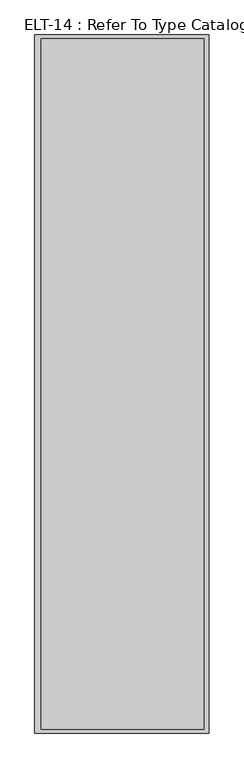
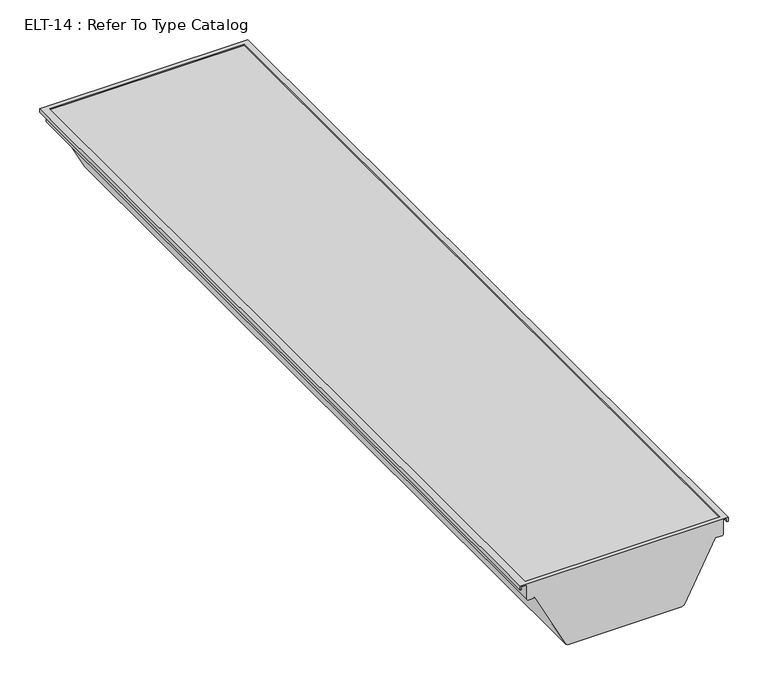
"""IFC4 building model written with IfcOpenShell, lengths in millimetres: light fixture geometry, ELT-14 : Refer To Type Catalog."""

from ifc_helpers import new_model, si_unit, frame, origin, place, context, project, spatial, polyline, outline, extrude, faceted_brep, source, transform, mapped, element, save


def elt_14_refer_to_type_catalog_abc9ac32(model_context):
    return source(origin(), model_context, "Body", "SolidModel", [
        faceted_brep([(242.4824085, -609.6, 0.3759373), (250.2375446, -609.6, 0.3759373), (250.2375446, -609.6, -21.7119856), (251.8212015, -609.6, -23.2956425), (261.569726, -609.6, -23.2956425), (306.7891329, -609.6, -110.7513712), (310.2429241, -609.6, -112.3619005), (476.3468929, -609.6, -112.3619005), (479.8006841, -609.6, -110.7513712), (525.020091, -609.6, -23.2956425), (534.7686155, -609.6, -23.2956425), (536.3522724, -609.6, -21.7119856), (536.3522724, -609.6, 0.3759373), (541.8949085, -609.6, 0.3759373), (541.8949085, -609.6, -4.0766196), (543.8949085, -609.6, -4.0766196), (543.8949085, -609.6, 1.9634373), (240.8949085, -609.6, 1.9634373), (240.8949085, -609.6, -4.0766196), (242.4824085, -609.6, -4.0766196), (251.8250446, -603.25, 1.9634373), (534.9248324, -603.25, 1.9634373), (534.9248324, -603.25, -21.7081425), (524.2138244, -603.25, -21.7081425), (478.1616856, -603.25, -110.7744005), (308.5881914, -603.25, -110.7744005), (262.5360526, -603.25, -21.7081425), (251.8250446, -603.25, -21.7081425), (242.4824085, 596.9, -4.0766196), (242.4824085, 603.25, -4.0766196), (242.4824085, 603.25, 0.0), (242.4824085, 596.9, 0.0), (242.4824085, 596.9, 0.3759373), (240.8949085, 596.9, -4.0766196), (240.8949085, 603.25, -4.0766196), (240.8949085, 603.25, 1.9634373), (543.8949085, 603.25, 1.9634373), (251.8250446, 596.9, 1.9634373), (534.9248324, 596.9, 1.9634373), (543.8949085, 596.9, -4.0766196), (543.8949085, 603.25, -4.0766196), (541.8949085, 596.9, -4.0766196), (541.8949085, 603.25, -4.0766196), (541.8949085, 596.9, 0.3759373), (541.8949085, 596.9, 0.0), (541.8949085, 603.25, 0.0), (536.3522724, 596.9, 0.3759373), (536.3522724, 596.9, -21.7119856), (536.3522724, 603.25, -21.7119856), (536.3522724, 603.25, 0.0), (536.3522724, 596.9, 0.0), (534.7686155, 596.9, -23.2956425), (534.7686155, 603.25, -23.2956425), (525.020091, 596.9, -23.2956425), (525.020091, 603.25, -23.2956425), (479.8006841, 596.9, -110.7513712), (479.8006841, 603.25, -110.7513712), (476.3468929, 596.9, -112.3619005), (476.3468929, 603.25, -112.3619005), (310.2429241, 596.9, -112.3619005), (310.2429241, 603.25, -112.3619005), (306.7891329, 596.9, -110.7513712), (306.7891329, 603.25, -110.7513712), (261.569726, 596.9, -23.2956425), (261.569726, 603.25, -23.2956425), (251.8212015, 596.9, -23.2956425), (251.8212015, 603.25, -23.2956425), (250.2375446, 596.9, -21.7119856), (250.2375446, 603.25, -21.7119856), (250.2375446, 596.9, 0.3759373), (250.2375446, 596.9, 0.0), (250.2375446, 603.25, 0.0), (251.8250446, 596.9, -21.7081425), (262.5360526, 596.9, -21.7081425), (308.5881914, 596.9, -110.7744005), (478.1616856, 596.9, -110.7744005), (524.2138244, 596.9, -21.7081425), (534.9248324, 596.9, -21.7081425)], [[[0, 1, 2, 3, 4, 5, 6, 7, 8, 9, 10, 11, 12, 13, 14, 15, 16, 17, 18, 19]], [[20, 21, 22, 23, 24, 25, 26, 27]], [[0, 19, 28, 29, 30, 31, 32]], [[19, 18, 33, 34, 29, 28]], [[18, 17, 35, 34, 33]], [[17, 16, 36, 35], [20, 37, 38, 21]], [[36, 16, 15, 39, 40]], [[15, 14, 41, 42, 40, 39]], [[14, 13, 43, 44, 45, 42, 41]], [[13, 12, 46, 43]], [[12, 11, 47, 48, 49, 50, 46]], [[11, 10, 51, 52, 48, 47]], [[10, 9, 53, 54, 52, 51]], [[9, 8, 55, 56, 54, 53]], [[8, 7, 57, 58, 56, 55]], [[7, 6, 59, 60, 58, 57]], [[6, 5, 61, 62, 60, 59]], [[5, 4, 63, 64, 62, 61]], [[4, 3, 65, 66, 64, 63]], [[3, 2, 67, 68, 66, 65]], [[2, 1, 69, 70, 71, 68, 67]], [[1, 0, 32, 69]], [[29, 34, 35, 36, 40, 42, 45, 49, 48, 52, 54, 56, 58, 60, 62, 64, 66, 68, 71, 30]], [[20, 27, 72, 37]], [[27, 26, 73, 72]], [[26, 25, 74, 73]], [[25, 24, 75, 74]], [[24, 23, 76, 75]], [[23, 22, 77, 76]], [[22, 21, 38, 77]], [[31, 70, 69, 32]], [[50, 44, 43, 46]], [[38, 37, 72, 73, 74, 75, 76, 77]], [[49, 45, 44, 50]], [[30, 71, 70, 31]]]),
        extrude(outline(polyline([(251.8250446, 596.9), (534.9248324, 596.9), (534.9248324, -603.25), (251.8250446, -603.25), (251.8250446, 596.9)])), frame((0.0, 0.0, -0.8954793), z_axis=(0.0, 0.0, 1.0), x_axis=(1.0, 0.0, 0.0)), (0.0, 0.0, 1.0), 1.2714166),
    ])


if __name__ == "__main__":
    model = new_model("IFC4")
    model_context = context("Model", 3, world=origin())
    ifc_project = project(units=[si_unit("LENGTHUNIT", "METRE", prefix="MILLI")], contexts=[model_context])
    site = spatial("IfcSite", under=ifc_project)
    building = spatial("IfcBuilding", under=site)
    placement = place(None, origin())
    elt_14_refer_to_type_catalog_shape = elt_14_refer_to_type_catalog_abc9ac32(model_context)
    element("IfcLightFixture", 1, ObjectType="ELT-14 : Refer To Type Catalog", at=placement, inside=building, context=model_context, shape_type="MappedRepresentation", body=[
        mapped(elt_14_refer_to_type_catalog_shape, transform((0.0, 0.0, 0.0), x_axis=(1.0, 0.0, 0.0), y_axis=(0.0, 1.0, 0.0), z_axis=(0.0, 0.0, 1.0))),
    ])
    save(model, "model.ifc")
